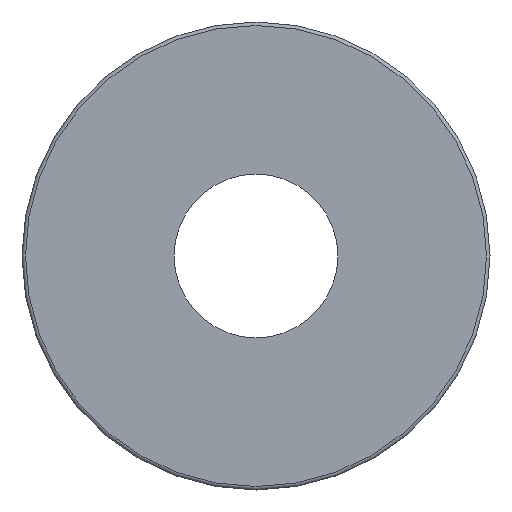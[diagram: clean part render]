
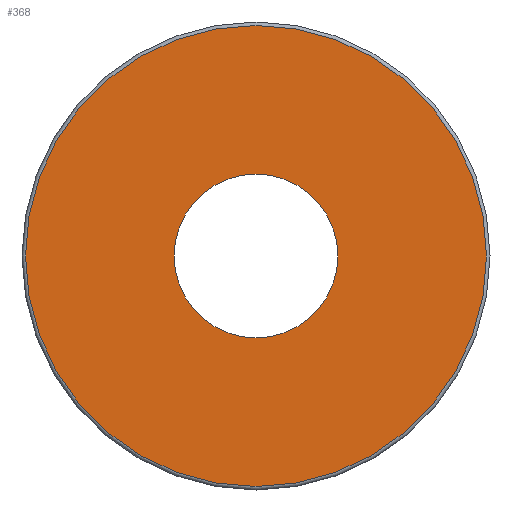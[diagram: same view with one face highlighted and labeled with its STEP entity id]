
A CAD part, front view. The second image highlights one B-rep face of the part: STEP entity #368.
In plain terms, the highlighted planar face has unit normal (0, -1, 0).
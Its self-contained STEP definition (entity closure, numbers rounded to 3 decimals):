
#31=FACE_BOUND('',#108,.T.);
#68=FACE_OUTER_BOUND('',#107,.T.);
#107=EDGE_LOOP('',(#329));
#108=EDGE_LOOP('',(#330));
#122=CIRCLE('',#405,9.85);
#132=CIRCLE('',#425,3.5);
#190=VERTEX_POINT('',#615);
#200=VERTEX_POINT('',#645);
#232=EDGE_CURVE('',#190,#190,#122,.T.);
#242=EDGE_CURVE('',#200,#200,#132,.T.);
#329=ORIENTED_EDGE('',*,*,#232,.F.);
#330=ORIENTED_EDGE('',*,*,#242,.T.);
#342=PLANE('',#426);
#368=ADVANCED_FACE('',(#68,#31),#342,.T.);
#405=AXIS2_PLACEMENT_3D('',#616,#503,#504);
#425=AXIS2_PLACEMENT_3D('',#646,#543,#544);
#426=AXIS2_PLACEMENT_3D('',#647,#545,#546);
#503=DIRECTION('center_axis',(0.,1.,0.));
#504=DIRECTION('ref_axis',(-1.,0.,0.));
#543=DIRECTION('center_axis',(0.,1.,0.));
#544=DIRECTION('ref_axis',(-1.,0.,0.));
#545=DIRECTION('center_axis',(0.,-1.,0.));
#546=DIRECTION('ref_axis',(0.,0.,-1.));
#615=CARTESIAN_POINT('',(-9.85,0.,0.));
#616=CARTESIAN_POINT('Origin',(0.,0.,0.));
#645=CARTESIAN_POINT('',(-3.5,0.,0.));
#646=CARTESIAN_POINT('Origin',(0.,0.,0.));
#647=CARTESIAN_POINT('Origin',(-6.675,0.,
0.));
